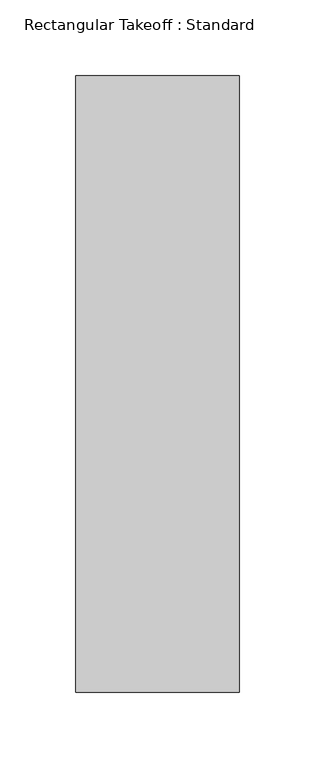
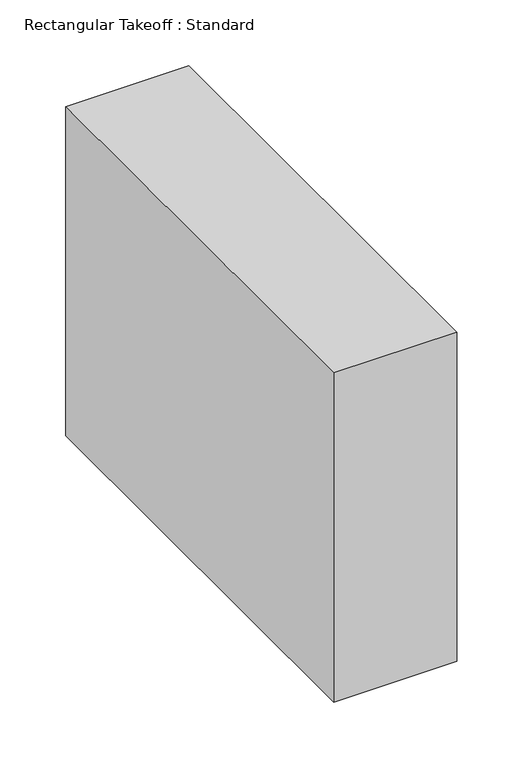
"""IFC4 building model written with IfcOpenShell, lengths in millimetres: duct fitting geometry, Rectangular Takeoff : Standard."""

from ifc_helpers import new_model, si_unit, frame, origin, place, context, project, spatial, polyline, outline, extrude, source, transform, mapped, element, save


def rectangular_takeoff_standard_1771fdc6(model_context):
    return source(origin(), model_context, "Body", "SweptSolid", [
        extrude(outline(polyline([(-6.096, 203.2), (101.6, 203.2), (101.6, -203.2), (-6.096, -203.2), (-6.096, 203.2)])), frame((0.0, 0.0, -152.4), z_axis=(0.0, 0.0, 1.0), x_axis=(1.0, 0.0, 0.0)), (0.0, 0.0, 1.0), 304.8),
    ])


if __name__ == "__main__":
    model = new_model("IFC4")
    model_context = context("Model", 3, world=origin())
    ifc_project = project(units=[si_unit("LENGTHUNIT", "METRE", prefix="MILLI")], contexts=[model_context])
    site = spatial("IfcSite", under=ifc_project)
    building = spatial("IfcBuilding", under=site)
    placement = place(None, origin())
    rectangular_takeoff_standard_shape = rectangular_takeoff_standard_1771fdc6(model_context)
    element("IfcDuctFitting", 1, ObjectType="Rectangular Takeoff : Standard", at=placement, inside=building, context=model_context, shape_type="MappedRepresentation", body=[
        mapped(rectangular_takeoff_standard_shape, transform((0.0, 0.0, 0.0), x_axis=(1.0, 0.0, 0.0), y_axis=(0.0, 1.0, 0.0), z_axis=(0.0, 0.0, 1.0))),
    ])
    save(model, "model.ifc")
